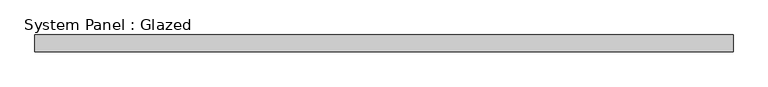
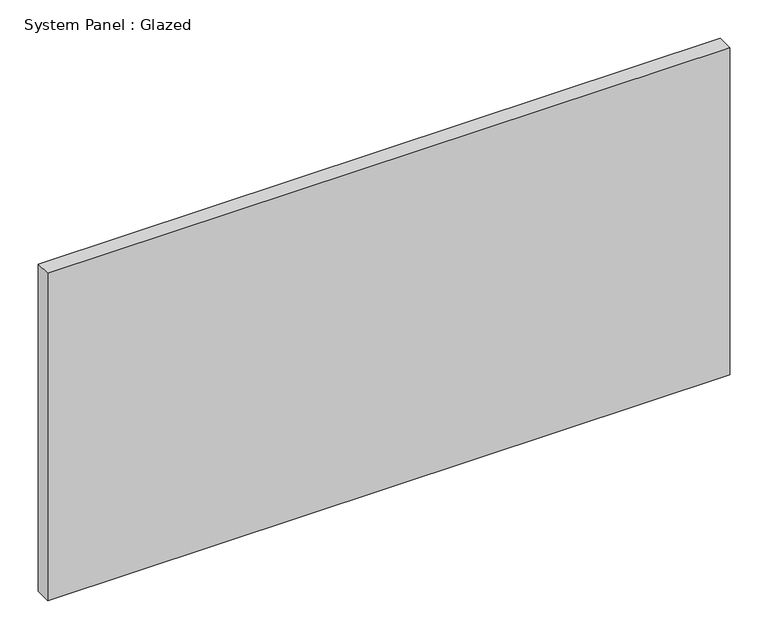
"""IFC4 building model written with IfcOpenShell, lengths in millimetres: plate geometry, System Panel : Glazed."""

from ifc_helpers import new_model, si_unit, origin, origin_with_axes, place, context, project, spatial, polyline, outline, extrude, source, transform, mapped, element, save


def system_panel_glazed_8e3a933b(model_context):
    return source(origin(), model_context, "Body", "SweptSolid", [
        extrude(outline(polyline([(517.5, -12.5), (-517.5, -12.5), (-517.5, 12.5), (517.5, 12.5), (517.5, -12.5)])), origin_with_axes(), (0.0, 0.0, 1.0), 525.0),
    ])


if __name__ == "__main__":
    model = new_model("IFC4")
    model_context = context("Model", 3, world=origin())
    ifc_project = project(units=[si_unit("LENGTHUNIT", "METRE", prefix="MILLI")], contexts=[model_context])
    site = spatial("IfcSite", under=ifc_project)
    building = spatial("IfcBuilding", under=site)
    placement = place(None, origin())
    system_panel_glazed_shape = system_panel_glazed_8e3a933b(model_context)
    element("IfcPlate", 1, ObjectType="System Panel : Glazed", at=placement, inside=building, context=model_context, shape_type="MappedRepresentation", body=[
        mapped(system_panel_glazed_shape, transform((0.0, 0.0, 0.0), x_axis=(1.0, 0.0, 0.0), y_axis=(0.0, 1.0, 0.0), z_axis=(0.0, 0.0, 1.0))),
    ])
    save(model, "model.ifc")
